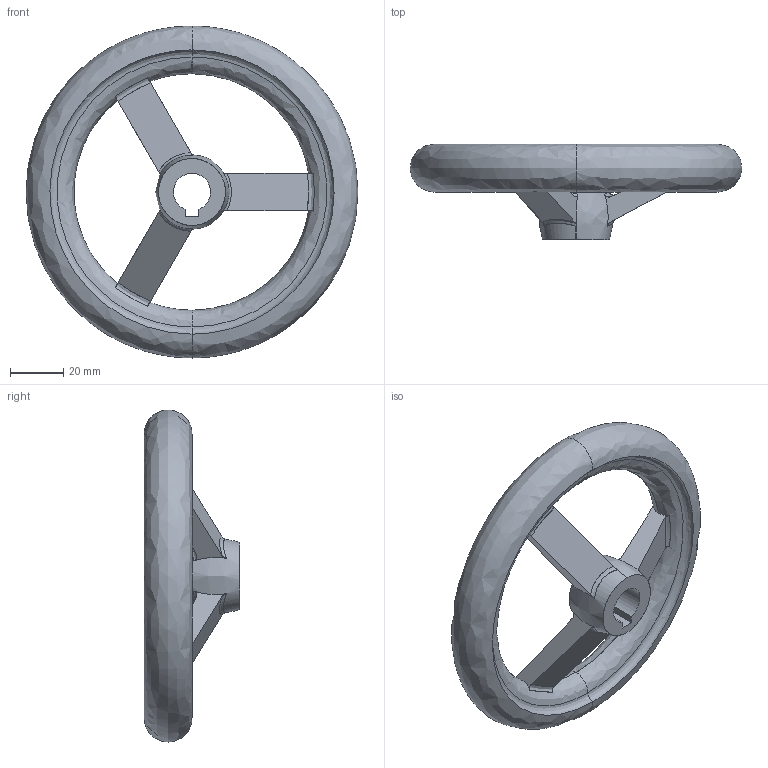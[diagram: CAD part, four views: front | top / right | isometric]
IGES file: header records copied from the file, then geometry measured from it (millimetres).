
Start section: SolidWorks IGES file using analytic representation for surfaces
Global section: file name: C:\Users\IanO\Desktop\Temp File\Process pending\77120_v2\77120_v2_20171108_IGES\77120.W0111.igs; native system: SolidWorks 2017; preprocessor: SolidWorks 2017; author: IanO; date: 171108.084153; units: millimetre
Bounding box: 125 x 36 x 125 mm (x, y, z)
Surface area: 26172.2 mm2 (no closed solid volume)
Topology: 0 solids, 0 shells, 53 faces, 878 edges, 870 vertices
Faces by surface type: bspline 52, revolution 1
